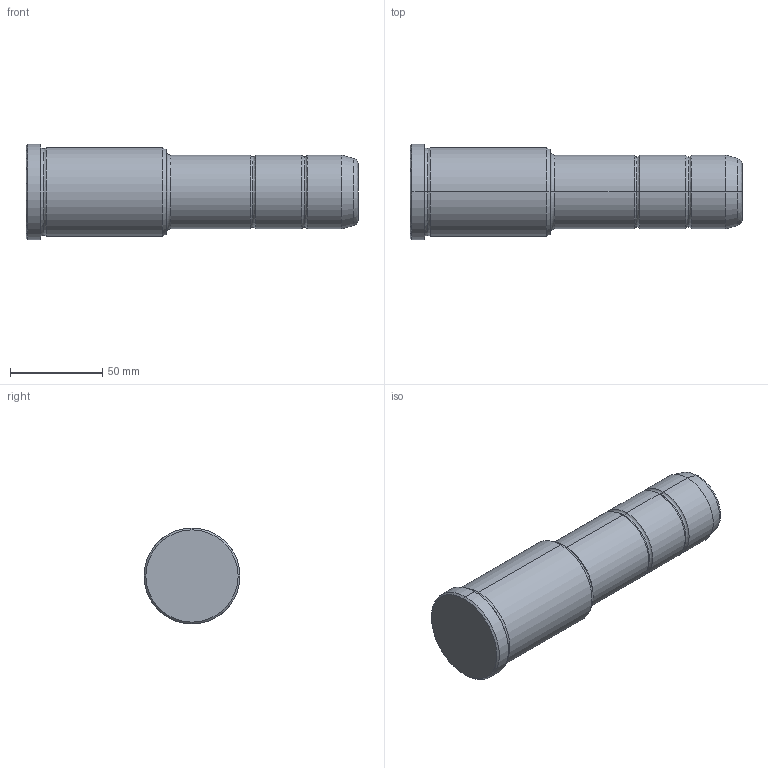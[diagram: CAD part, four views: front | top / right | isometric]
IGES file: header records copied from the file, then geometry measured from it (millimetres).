
Start section: START RECORD GO HERE.
Global section: file name: 351-40X76X180.igs; native system: DASSAULT SYSTEMES CATIA V5 R20 - www.3ds.com; preprocessor: CATIA Version 5 Release 20 ; author: Utente; organization: NB04-ASUS; date: 20211008.084225; units: millimetre
Bounding box: 180 x 52 x 52 mm (x, y, z)
Surface area: 28325.4 mm2 (no closed solid volume)
Topology: 0 solids, 0 shells, 36 faces, 204 edges, 204 vertices
Faces by surface type: revolution 32, plane 4
